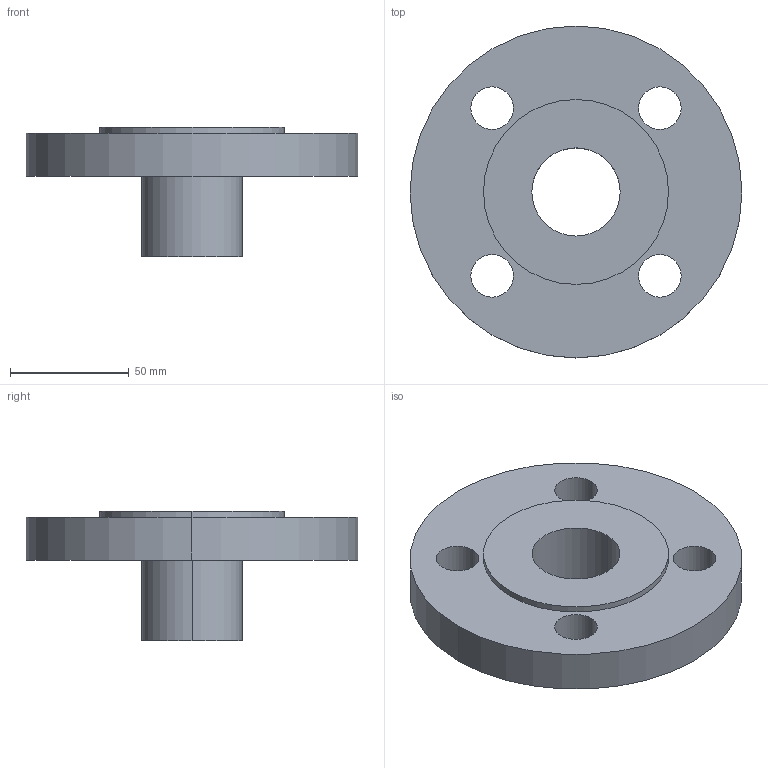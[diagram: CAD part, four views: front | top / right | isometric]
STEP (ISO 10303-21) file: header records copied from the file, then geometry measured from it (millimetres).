
FILE_DESCRIPTION (( 'STEP AP214' ), '1' );
FILE_NAME ('PN40 DN32 Type 02 in 33 - (Type A Face).STEP', '2018-12-30T00:05:50', ( '' ), ( '' ), 'SwSTEP 2.0', 'SolidWorks 2019', '' );
FILE_SCHEMA (( 'AUTOMOTIVE_DESIGN' ));
Length unit declared in the file: millimetre
Products named in the file (1): PN40 DN32 Type 02 in 33 - (Type A Face)
Bounding box: 140 x 140 x 54.6 mm (x, y, z)
Volume: 253859.7 mm3; surface area: 60498.2 mm2
Topology: 2 solids, 2 shells, 27 faces, 62 edges, 40 vertices
Faces by surface type: cylinder 18, plane 5, cone 4
Entity records: 851 total; most frequent: DIRECTION 158, CARTESIAN_POINT 130, ORIENTED_EDGE 124, AXIS2_PLACEMENT_3D 68, EDGE_CURVE 62, VERTEX_POINT 40, CIRCLE 40, EDGE_LOOP 40
